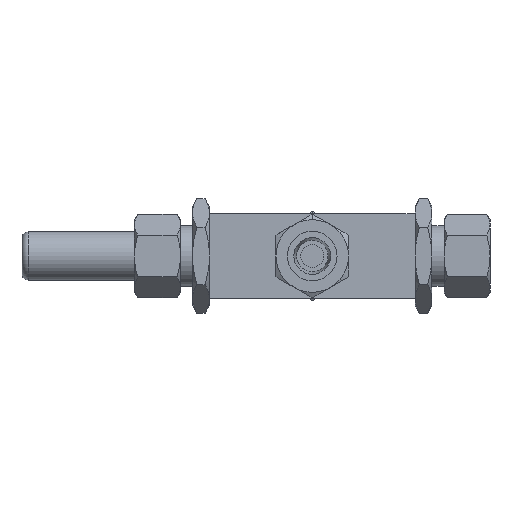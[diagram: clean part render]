
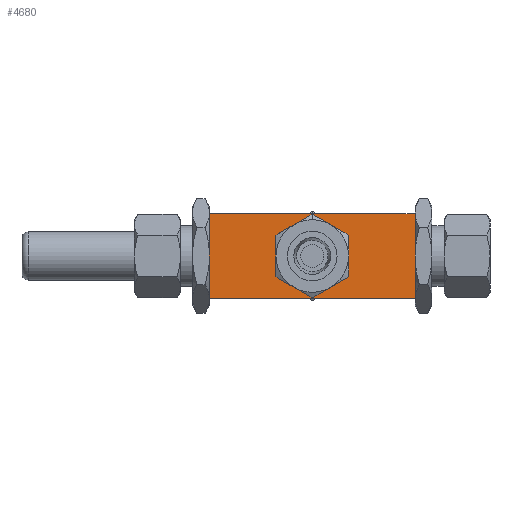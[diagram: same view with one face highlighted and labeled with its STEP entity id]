
A CAD part, front view. The second image highlights one B-rep face of the part: STEP entity #4680.
In plain terms, the highlighted planar face has unit normal (0, -1, 0).
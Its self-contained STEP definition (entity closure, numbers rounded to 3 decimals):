
#75 = CARTESIAN_POINT ( 'NONE',  ( -42.5, -32.5, 17.5 ) ) ;
#131 = DIRECTION ( 'NONE',  ( 0., -1., 0. ) ) ;
#218 = DIRECTION ( 'NONE',  ( 0., 0., -1. ) ) ;
#310 = DIRECTION ( 'NONE',  ( 1., 0., 0. ) ) ;
#341 = LINE ( 'NONE', #3668, #5719 ) ;
#429 = ORIENTED_EDGE ( 'NONE', *, *, #6642, .F. ) ;
#614 = VERTEX_POINT ( 'NONE', #3713 ) ;
#641 = CARTESIAN_POINT ( 'NONE',  ( 0., -32.5, 0. ) ) ;
#695 = DIRECTION ( 'NONE',  ( 0., -1., 0. ) ) ;
#743 = CARTESIAN_POINT ( 'NONE',  ( -42.5, -32.5, 17.5 ) ) ;
#760 = VERTEX_POINT ( 'NONE', #3348 ) ;
#766 = CIRCLE ( 'NONE', #2534, 15. ) ;
#915 = EDGE_CURVE ( 'NONE', #6299, #6339, #341, .T. ) ;
#942 = AXIS2_PLACEMENT_3D ( 'NONE', #3379, #1810, #6024 ) ;
#1056 = DIRECTION ( 'NONE',  ( 0., 0., -1. ) ) ;
#1111 = EDGE_CURVE ( 'NONE', #4595, #6299, #5285, .T. ) ;
#1168 = DIRECTION ( 'NONE',  ( 0., 0., -1. ) ) ;
#1198 = AXIS2_PLACEMENT_3D ( 'NONE', #641, #3849, #4856 ) ;
#1322 = FACE_BOUND ( 'NONE', #3665, .T. ) ;
#1375 = EDGE_CURVE ( 'NONE', #3989, #614, #5855, .T. ) ;
#1561 = CARTESIAN_POINT ( 'NONE',  ( 42.5, -32.5, 17.5 ) ) ;
#1563 = CARTESIAN_POINT ( 'NONE',  ( -7.5, -32.5, -12.99 ) ) ;
#1616 = DIRECTION ( 'NONE',  ( 0., -1., 0. ) ) ;
#1760 = ORIENTED_EDGE ( 'NONE', *, *, #4154, .F. ) ;
#1810 = DIRECTION ( 'NONE',  ( 0., -1., 0. ) ) ;
#1841 = DIRECTION ( 'NONE',  ( 0., 1., 0. ) ) ;
#1939 = CIRCLE ( 'NONE', #2833, 15. ) ;
#2050 = ORIENTED_EDGE ( 'NONE', *, *, #1111, .T. ) ;
#2264 = CARTESIAN_POINT ( 'NONE',  ( 42.5, -32.5, -17.5 ) ) ;
#2278 = ORIENTED_EDGE ( 'NONE', *, *, #2743, .F. ) ;
#2358 = DIRECTION ( 'NONE',  ( 0., -1., 0. ) ) ;
#2369 = CARTESIAN_POINT ( 'NONE',  ( -42.5, -32.5, 17.5 ) ) ;
#2443 = VERTEX_POINT ( 'NONE', #1561 ) ;
#2534 = AXIS2_PLACEMENT_3D ( 'NONE', #5790, #131, #4304 ) ;
#2669 = DIRECTION ( 'NONE',  ( 0., 0., -1. ) ) ;
#2687 = CARTESIAN_POINT ( 'NONE',  ( -42.5, -32.5, -17.5 ) ) ;
#2730 = DIRECTION ( 'NONE',  ( 1., 0., 0. ) ) ;
#2743 = EDGE_CURVE ( 'NONE', #3453, #5259, #766, .T. ) ;
#2833 = AXIS2_PLACEMENT_3D ( 'NONE', #3904, #2358, #1168 ) ;
#2987 = EDGE_LOOP ( 'NONE', ( #3233, #4903, #3064, #2050 ) ) ;
#3015 = CARTESIAN_POINT ( 'NONE',  ( 7.5, -32.5, -12.99 ) ) ;
#3043 = AXIS2_PLACEMENT_3D ( 'NONE', #6325, #1616, #2669 ) ;
#3064 = ORIENTED_EDGE ( 'NONE', *, *, #4243, .F. ) ;
#3097 = CIRCLE ( 'NONE', #1198, 15. ) ;
#3233 = ORIENTED_EDGE ( 'NONE', *, *, #915, .T. ) ;
#3255 = CARTESIAN_POINT ( 'NONE',  ( -42.5, -32.5, 17.5 ) ) ;
#3348 = CARTESIAN_POINT ( 'NONE',  ( 15., -32.5, 0. ) ) ;
#3379 = CARTESIAN_POINT ( 'NONE',  ( 0., -32.5, 0. ) ) ;
#3396 = DIRECTION ( 'NONE',  ( 0., 0., -1. ) ) ;
#3453 = VERTEX_POINT ( 'NONE', #1563 ) ;
#3530 = DIRECTION ( 'NONE',  ( 0., -1., 0. ) ) ;
#3586 = CARTESIAN_POINT ( 'NONE',  ( 42.5, -32.5, 17.5 ) ) ;
#3598 = CIRCLE ( 'NONE', #6253, 15. ) ;
#3660 = CARTESIAN_POINT ( 'NONE',  ( 0., -32.5, -15. ) ) ;
#3665 = EDGE_LOOP ( 'NONE', ( #6306, #1760, #5976, #429, #2278, #6799, #6719 ) ) ;
#3668 = CARTESIAN_POINT ( 'NONE',  ( -42.5, -32.5, -17.5 ) ) ;
#3713 = CARTESIAN_POINT ( 'NONE',  ( -15., -32.5, 0. ) ) ;
#3849 = DIRECTION ( 'NONE',  ( 0., -1., 0. ) ) ;
#3904 = CARTESIAN_POINT ( 'NONE',  ( 0., -32.5, 0. ) ) ;
#3989 = VERTEX_POINT ( 'NONE', #5087 ) ;
#4151 = CIRCLE ( 'NONE', #942, 15. ) ;
#4154 = EDGE_CURVE ( 'NONE', #760, #4481, #6010, .T. ) ;
#4243 = EDGE_CURVE ( 'NONE', #4595, #2443, #6430, .T. ) ;
#4304 = DIRECTION ( 'NONE',  ( 0., 0., -1. ) ) ;
#4313 = AXIS2_PLACEMENT_3D ( 'NONE', #4629, #3530, #5624 ) ;
#4360 = PLANE ( 'NONE',  #6802 ) ;
#4481 = VERTEX_POINT ( 'NONE', #5721 ) ;
#4595 = VERTEX_POINT ( 'NONE', #2369 ) ;
#4629 = CARTESIAN_POINT ( 'NONE',  ( 0., -32.5, 0. ) ) ;
#4680 = ADVANCED_FACE ( 'NONE', ( #5437, #1322 ), #4360, .F. ) ;
#4794 = LINE ( 'NONE', #3586, #6043 ) ;
#4856 = DIRECTION ( 'NONE',  ( 0., 0., -1. ) ) ;
#4903 = ORIENTED_EDGE ( 'NONE', *, *, #5668, .F. ) ;
#4924 = DIRECTION ( 'NONE',  ( 0., 0., 1. ) ) ;
#5087 = CARTESIAN_POINT ( 'NONE',  ( -7.5, -32.5, 12.99 ) ) ;
#5259 = VERTEX_POINT ( 'NONE', #3660 ) ;
#5285 = LINE ( 'NONE', #75, #5390 ) ;
#5390 = VECTOR ( 'NONE', #218, 1000. ) ;
#5424 = CARTESIAN_POINT ( 'NONE',  ( 0., -32.5, 0. ) ) ;
#5437 = FACE_OUTER_BOUND ( 'NONE', #2987, .T. ) ;
#5624 = DIRECTION ( 'NONE',  ( 0., 0., -1. ) ) ;
#5668 = EDGE_CURVE ( 'NONE', #2443, #6339, #4794, .T. ) ;
#5719 = VECTOR ( 'NONE', #310, 1000. ) ;
#5721 = CARTESIAN_POINT ( 'NONE',  ( 7.5, -32.5, 12.99 ) ) ;
#5790 = CARTESIAN_POINT ( 'NONE',  ( 0., -32.5, 0. ) ) ;
#5855 = CIRCLE ( 'NONE', #4313, 15. ) ;
#5976 = ORIENTED_EDGE ( 'NONE', *, *, #6461, .F. ) ;
#6010 = CIRCLE ( 'NONE', #3043, 15. ) ;
#6024 = DIRECTION ( 'NONE',  ( 0., 0., -1. ) ) ;
#6043 = VECTOR ( 'NONE', #1056, 1000. ) ;
#6246 = EDGE_CURVE ( 'NONE', #614, #3453, #3097, .T. ) ;
#6253 = AXIS2_PLACEMENT_3D ( 'NONE', #5424, #695, #3396 ) ;
#6299 = VERTEX_POINT ( 'NONE', #2687 ) ;
#6306 = ORIENTED_EDGE ( 'NONE', *, *, #6670, .F. ) ;
#6325 = CARTESIAN_POINT ( 'NONE',  ( 0., -32.5, 0. ) ) ;
#6339 = VERTEX_POINT ( 'NONE', #2264 ) ;
#6430 = LINE ( 'NONE', #3255, #6586 ) ;
#6461 = EDGE_CURVE ( 'NONE', #6779, #760, #4151, .T. ) ;
#6586 = VECTOR ( 'NONE', #2730, 1000. ) ;
#6642 = EDGE_CURVE ( 'NONE', #5259, #6779, #1939, .T. ) ;
#6670 = EDGE_CURVE ( 'NONE', #4481, #3989, #3598, .T. ) ;
#6719 = ORIENTED_EDGE ( 'NONE', *, *, #1375, .F. ) ;
#6779 = VERTEX_POINT ( 'NONE', #3015 ) ;
#6799 = ORIENTED_EDGE ( 'NONE', *, *, #6246, .F. ) ;
#6802 = AXIS2_PLACEMENT_3D ( 'NONE', #743, #1841, #4924 ) ;
